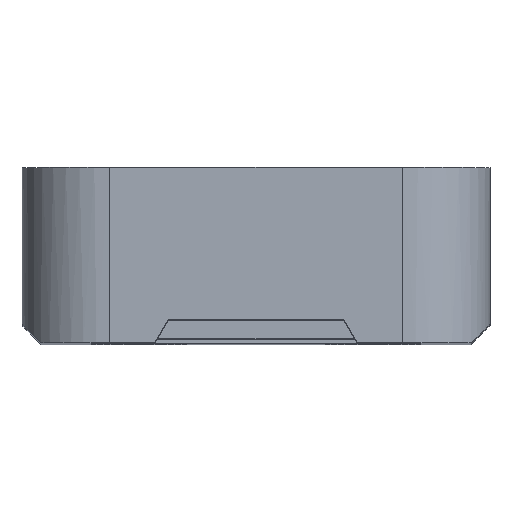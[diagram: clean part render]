
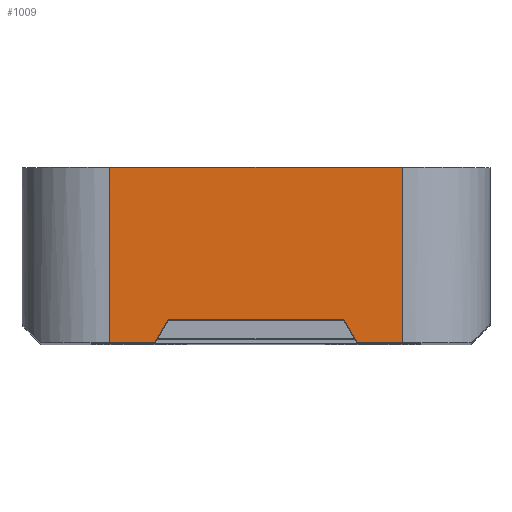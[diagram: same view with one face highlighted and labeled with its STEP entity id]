
A CAD part, top view. The second image highlights one B-rep face of the part: STEP entity #1009.
In plain terms, the highlighted planar face has unit normal (0, 0, 1).
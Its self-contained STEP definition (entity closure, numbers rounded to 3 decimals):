
#56=PLANE('',#1119);
#252=ORIENTED_EDGE('',*,*,#469,.F.);
#253=ORIENTED_EDGE('',*,*,#470,.T.);
#254=ORIENTED_EDGE('',*,*,#471,.F.);
#255=ORIENTED_EDGE('',*,*,#472,.F.);
#256=ORIENTED_EDGE('',*,*,#467,.T.);
#257=ORIENTED_EDGE('',*,*,#473,.T.);
#258=ORIENTED_EDGE('',*,*,#474,.F.);
#259=ORIENTED_EDGE('',*,*,#475,.F.);
#467=EDGE_CURVE('',#589,#588,#679,.T.);
#469=EDGE_CURVE('',#590,#591,#680,.T.);
#470=EDGE_CURVE('',#590,#592,#681,.T.);
#471=EDGE_CURVE('',#593,#592,#682,.T.);
#472=EDGE_CURVE('',#589,#593,#683,.T.);
#473=EDGE_CURVE('',#588,#594,#684,.T.);
#474=EDGE_CURVE('',#595,#594,#685,.T.);
#475=EDGE_CURVE('',#591,#595,#686,.T.);
#588=VERTEX_POINT('',#1630);
#589=VERTEX_POINT('',#1632);
#590=VERTEX_POINT('',#1636);
#591=VERTEX_POINT('',#1637);
#592=VERTEX_POINT('',#1639);
#593=VERTEX_POINT('',#1641);
#594=VERTEX_POINT('',#1644);
#595=VERTEX_POINT('',#1646);
#679=LINE('',#1631,#767);
#680=LINE('',#1635,#768);
#681=LINE('',#1638,#769);
#682=LINE('',#1640,#770);
#683=LINE('',#1642,#771);
#684=LINE('',#1643,#772);
#685=LINE('',#1645,#773);
#686=LINE('',#1647,#774);
#767=VECTOR('',#1327,1000.);
#768=VECTOR('',#1332,1000.);
#769=VECTOR('',#1333,1000.);
#770=VECTOR('',#1334,1000.);
#771=VECTOR('',#1335,1000.);
#772=VECTOR('',#1336,1000.);
#773=VECTOR('',#1337,1000.);
#774=VECTOR('',#1338,1000.);
#851=EDGE_LOOP('',(#252,#253,#254,#255,#256,#257,#258,#259));
#925=FACE_BOUND('',#851,.T.);
#1009=ADVANCED_FACE('',(#925),#56,.F.);
#1119=AXIS2_PLACEMENT_3D('',#1634,#1330,#1331);
#1327=DIRECTION('',(0.,-1.,0.));
#1330=DIRECTION('',(0.,0.,-1.));
#1331=DIRECTION('',(-1.,0.,0.));
#1332=DIRECTION('',(-0.5,0.866,0.));
#1333=DIRECTION('',(1.,0.,0.));
#1334=DIRECTION('',(0.,-1.,0.));
#1335=DIRECTION('',(1.,0.,0.));
#1336=DIRECTION('',(1.,0.,0.));
#1337=DIRECTION('',(-0.5,-0.866,0.));
#1338=DIRECTION('',(-1.,0.,0.));
#1630=CARTESIAN_POINT('',(-7.95,0.,15.113));
#1631=CARTESIAN_POINT('',(-7.95,9.525,15.113));
#1632=CARTESIAN_POINT('',(-7.95,9.525,15.113));
#1634=CARTESIAN_POINT('',(-7.95,9.525,15.113));
#1635=CARTESIAN_POINT('',(5.496,0.,15.113));
#1636=CARTESIAN_POINT('',(5.496,0.,15.113));
#1637=CARTESIAN_POINT('',(4.763,1.27,15.113));
#1638=CARTESIAN_POINT('',(-7.95,0.,15.113));
#1639=CARTESIAN_POINT('',(7.95,0.,15.113));
#1640=CARTESIAN_POINT('',(7.95,9.525,15.113));
#1641=CARTESIAN_POINT('',(7.95,9.525,15.113));
#1642=CARTESIAN_POINT('',(-7.95,9.525,15.113));
#1643=CARTESIAN_POINT('',(-7.95,0.,15.113));
#1644=CARTESIAN_POINT('',(-5.496,0.,15.113));
#1645=CARTESIAN_POINT('',(-4.763,1.27,15.113));
#1646=CARTESIAN_POINT('',(-4.763,1.27,15.113));
#1647=CARTESIAN_POINT('',(4.763,1.27,15.113));
